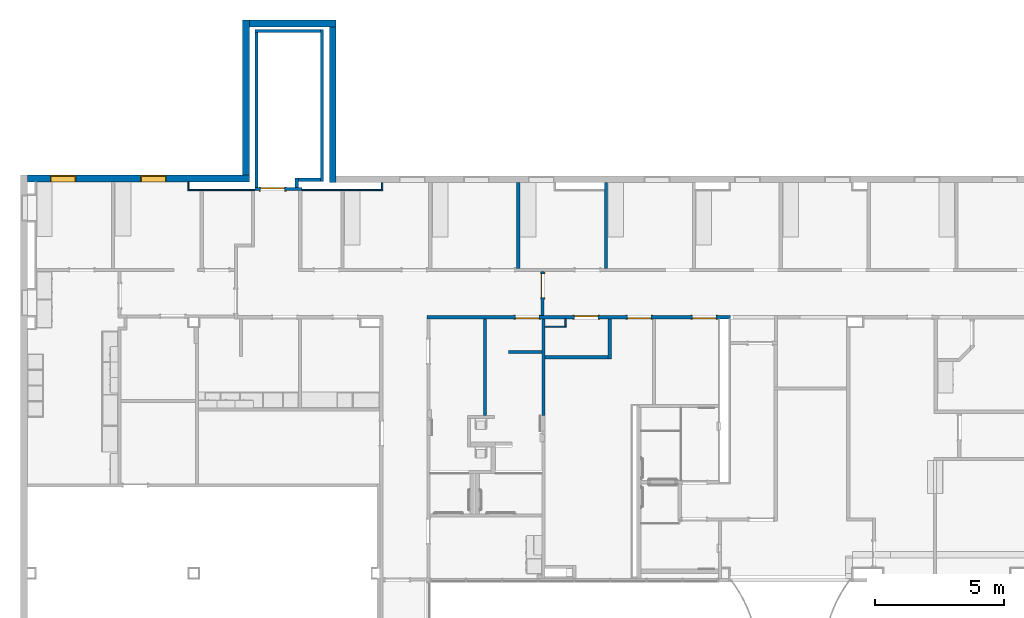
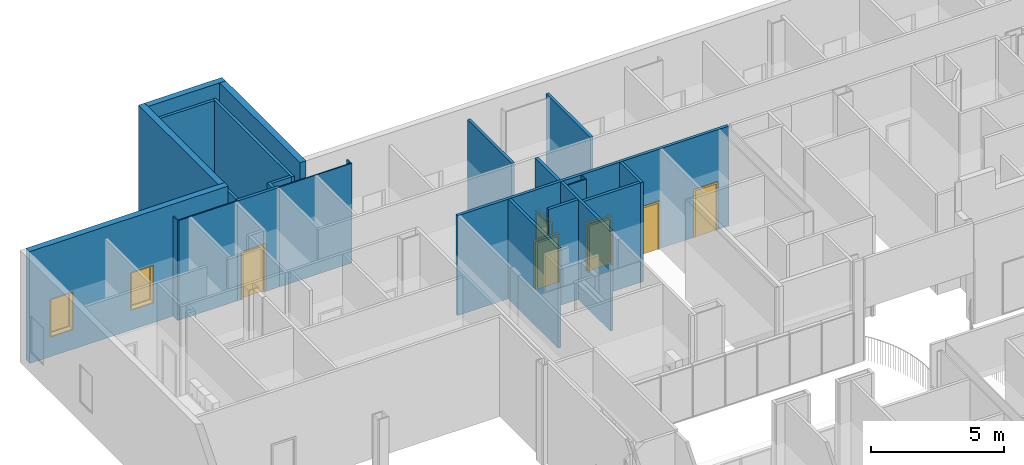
# One storey, part 21 of 45: 25 walls, 6 doors, 2 windows, 8 openings.
"""IFC2X3 building model written with IfcOpenShell, lengths in metres."""

from ifc_helpers import new_model, entity, si_unit, converted_unit, frame, frame_2d, origin, origin_2d_with_axis, place, context, project, spatial, polyline, rectangle, outline, extrude, source, transform, mapped, material, layer, layer_set, layer_usage, type_object, type_shapes, element, fill, save


model = new_model("IFC2X3")

# Units and contexts
model_context = context("Model", 3, precision=1e-09, world=origin())
plan_context = context("Plan", 3, precision=1e-09, world=origin())
ifc_project = project(units=[si_unit("LENGTHUNIT", "METRE"), si_unit("AREAUNIT", "SQUARE_METRE"), si_unit("VOLUMEUNIT", "CUBIC_METRE"), converted_unit("PLANEANGLEUNIT", "DEGREE", entity("IfcRatioMeasure", 0.01745329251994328), si_unit("PLANEANGLEUNIT", "RADIAN"), dimensions=[0, 0, 0, 0, 0, 0, 0]), si_unit("TIMEUNIT", "SECOND")], contexts=[model_context, plan_context])

# Site, building, storey
site_placement = place(None, origin())
site = spatial("IfcSite", under=ifc_project, at=site_placement, Name="Default", CompositionType="ELEMENT")
building_placement = place(site_placement, origin())
building = spatial("IfcBuilding", under=site, at=building_placement, CompositionType="ELEMENT")
storey_placement = place(building_placement, frame((0.0, 0.0, 4.570000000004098)))
storey = spatial("IfcBuildingStorey", under=building, at=storey_placement, Name="Second Floor", CompositionType="ELEMENT", Elevation=4.570000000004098)

# Wall, openings, doors
ifc_material_1 = material(Name="Plasterboard")
ifc_layer_1 = layer(ifc_material_1, 0.016)
ifc_material_2 = material(Name="Metal - Stud Layer")
ifc_layer_2 = layer(ifc_material_2, 0.092)
ifc_layer_3 = layer(ifc_material_1, 0.016)
ifc_layer_set_1 = layer_set([ifc_layer_1, ifc_layer_2, ifc_layer_3], Name="Basic Wall:Interior - Partition (92mm Stud)")
ifc_layer_usage_1 = layer_usage(ifc_layer_set_1, "AXIS2", "NEGATIVE", 0.062)
wall_1_placement = place(storey_placement, frame((-31.61000000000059, 44.98243871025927, 0.0)))
wall_1 = element("IfcWallStandardCase", 1, at=wall_1_placement, inside=storey, material=ifc_layer_usage_1, Name="Basic Wall:Interior - Partition (92mm Stud)", ObjectType="Basic Wall:Interior - Partition (92mm Stud)", context=model_context, shape_type="SweptSolid", body=[
    extrude(rectangle(XDim=11.78000000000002, YDim=0.1240000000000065, at=frame_2d((5.890000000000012, 0.0), x_axis=(-1.0, 0.0))), origin(), (0.0, 0.0, 1.0), 4.577999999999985),
])
opening_1_placement = place(wall_1_placement, frame((8.69600000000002, 0.06199999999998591, 0.0)))
opening_1 = element("IfcOpeningElement", 2, at=opening_1_placement, cuts=wall_1, Name="M_Single-Flush:0915 x 2134mm:0915 x 2134mm:1", ObjectType="Opening", context=model_context, shape_type="SweptSolid", body=[
    extrude(rectangle(XDim=0.9149999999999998, YDim=2.134, at=frame_2d((1.067, 0.4574999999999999), x_axis=(0.0, -1.0))), frame((0.0, 0.0, 0.0), z_axis=(0.0, -1.0, 0.0), x_axis=(0.0, 0.0, 1.0)), (0.0, 0.0, 1.0), 0.124),
])
opening_2_placement = place(wall_1_placement, frame((4.360000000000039, 0.06200000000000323, 0.0)))
opening_2 = element("IfcOpeningElement", 3, at=opening_2_placement, cuts=wall_1, Name="M_Single-Flush:0915 x 2134mm:0915 x 2134mm:1", ObjectType="Opening", context=model_context, shape_type="SweptSolid", body=[
    extrude(rectangle(XDim=0.9149999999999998, YDim=2.134, at=frame_2d((1.067, 0.4574999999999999), x_axis=(0.0, -1.0))), frame((0.0, 0.0, 0.0), z_axis=(0.0, -1.0, 0.0), x_axis=(0.0, 0.0, 1.0)), (0.0, 0.0, 1.0), 0.124),
])
opening_3_placement = place(wall_1_placement, frame((11.22000000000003, 0.06199999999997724, 0.0)))
opening_3 = element("IfcOpeningElement", 4, at=opening_3_placement, cuts=wall_1, Name="M_Single-Flush:0915 x 2134mm:0915 x 2134mm:1", ObjectType="Opening", context=model_context, shape_type="SweptSolid", body=[
    extrude(rectangle(XDim=0.9149999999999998, YDim=2.134, at=frame_2d((1.067, 0.4574999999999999), x_axis=(0.0, -1.0))), frame((0.0, 0.0, 0.0), z_axis=(0.0, -1.0, 0.0), x_axis=(0.0, 0.0, 1.0)), (0.0, 0.0, 1.0), 0.124),
])
opening_4_placement = place(wall_1_placement, frame((5.721000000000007, -0.06200000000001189, 0.0)))
opening_4 = element("IfcOpeningElement", 5, at=opening_4_placement, cuts=wall_1, Name="M_Single-Flush:0915 x 2134mm:0915 x 2134mm:1", ObjectType="Opening", context=model_context, shape_type="SweptSolid", body=[
    extrude(rectangle(XDim=0.9149999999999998, YDim=2.134, at=frame_2d((1.067, 0.4575), x_axis=(0.0, 1.0))), frame((0.0, 0.0, 0.0), z_axis=(0.0, 1.0, 0.0), x_axis=(0.0, 0.0, 1.0)), (0.0, 0.0, 1.0), 0.124),
])
door_style_1 = type_object("IfcDoorStyle", Name="0915 x 2134mm", ConstructionType="NOTDEFINED", OperationType="SINGLE_SWING_RIGHT", ParameterTakesPrecedence=False, Sizeable=False)
shared_shape_1 = source(origin(), model_context, "Body", "SweptSolid", [
    extrude(outline(polyline([(-0.5335, -1.123999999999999), (0.5334999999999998, -1.123999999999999), (0.5334999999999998, 1.086), (0.4574999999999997, 1.086), (0.4574999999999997, -1.048000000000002), (-0.4574999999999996, -1.048000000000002), (-0.4574999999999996, 1.086), (-0.5335, 1.086), (-0.5335, -1.123999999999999)])), frame((0.4575000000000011, 0.1239999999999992, 1.086), z_axis=(0.0, 1.0, 0.0), x_axis=(1.0, 0.0, 0.0)), (0.0, 0.0, 1.0), 0.02499999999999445),
    extrude(outline(polyline([(-1.123999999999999, -0.5334999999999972), (1.085999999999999, -0.5334999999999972), (1.085999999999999, -0.4575000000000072), (-1.048, -0.4575000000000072), (-1.048, 0.4575000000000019), (1.085999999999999, 0.4575000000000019), (1.085999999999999, 0.5335000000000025), (-1.123999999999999, 0.5335000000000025), (-1.123999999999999, -0.5334999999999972)])), frame((0.4575000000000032, -0.02500000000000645, 1.085999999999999), z_axis=(0.0, 1.0, 0.0), x_axis=(0.0, 0.0, -1.0)), (0.0, 0.0, 1.0), 0.02500000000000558),
    extrude(rectangle(XDim=0.051, YDim=0.9149999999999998, at=origin_2d_with_axis()), frame((0.4575000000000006, 0.09849999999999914, 0.0), z_axis=(0.0, 0.0, 1.0), x_axis=(0.0, 1.0, 0.0)), (0.0, 0.0, 1.0), 2.133999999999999),
])
type_shapes(door_style_1, [shared_shape_1])
door_1_placement = place(opening_4_placement, origin())
door_1 = element("IfcDoor", 6, at=door_1_placement, inside=storey, type_object=door_style_1, Name="M_Single-Flush:0915 x 2134mm:0915 x 2134mm", ObjectType="0915 x 2134mm", OverallHeight=2.134, OverallWidth=0.9149999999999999, context=model_context, shape_type="MappedRepresentation", body=[
    mapped(shared_shape_1, transform((0.0, 0.0, 0.0), scale=1.0)),
])
fill(opening_4, door_1)
door_style_2 = type_object("IfcDoorStyle", Name="0915 x 2134mm", ConstructionType="NOTDEFINED", OperationType="SINGLE_SWING_LEFT", ParameterTakesPrecedence=False, Sizeable=False)
shared_shape_2 = source(origin(), model_context, "Body", "SweptSolid", [
    extrude(outline(polyline([(-0.5335, -1.123999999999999), (0.5334999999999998, -1.123999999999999), (0.5334999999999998, 1.086), (0.4574999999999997, 1.086), (0.4574999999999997, -1.048000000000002), (-0.4574999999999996, -1.048000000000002), (-0.4574999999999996, 1.086), (-0.5335, 1.086), (-0.5335, -1.123999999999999)])), frame((0.4575000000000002, 0.1489999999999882, 1.086), z_axis=(0.0, -1.0, 0.0), x_axis=(-1.0, 0.0, 0.0)), (0.0, 0.0, 1.0), 0.02499999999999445),
    extrude(outline(polyline([(-1.123999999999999, -0.5334999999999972), (1.085999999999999, -0.5334999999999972), (1.085999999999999, -0.4575000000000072), (-1.048, -0.4575000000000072), (-1.048, 0.4575000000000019), (1.085999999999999, 0.4575000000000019), (1.085999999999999, 0.5335000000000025), (-1.123999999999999, 0.5335000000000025), (-1.123999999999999, -0.5334999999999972)])), frame((0.4574999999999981, 0.0, 1.085999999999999), z_axis=(0.0, -1.0, 0.0), x_axis=(0.0, 0.0, -1.0)), (0.0, 0.0, 1.0), 0.02500000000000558),
    extrude(rectangle(XDim=0.9149999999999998, YDim=0.051, at=origin_2d_with_axis()), frame((0.4575000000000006, 0.09849999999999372, 0.0)), (0.0, 0.0, 1.0), 2.133999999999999),
])
type_shapes(door_style_2, [shared_shape_2])
door_2_placement = place(opening_3_placement, frame((0.0, 0.0, 0.0), z_axis=(0.0, 0.0, 1.0), x_axis=(-1.0, 0.0, 0.0)))
door_2 = element("IfcDoor", 7, at=door_2_placement, inside=storey, type_object=door_style_2, Name="M_Single-Flush:0915 x 2134mm:0915 x 2134mm", ObjectType="0915 x 2134mm", OverallHeight=2.134, OverallWidth=0.9149999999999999, context=model_context, shape_type="MappedRepresentation", body=[
    mapped(shared_shape_2, transform((0.0, 0.0, 0.0), scale=1.0)),
])
fill(opening_3, door_2)
door_3_placement = place(opening_2_placement, frame((0.0, 0.0, 0.0), z_axis=(0.0, 0.0, 1.0), x_axis=(-1.0, 0.0, 0.0)))
door_3 = element("IfcDoor", 8, at=door_3_placement, inside=storey, type_object=door_style_2, Name="M_Single-Flush:0915 x 2134mm:0915 x 2134mm", ObjectType="0915 x 2134mm", OverallHeight=2.134, OverallWidth=0.9149999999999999, context=model_context, shape_type="MappedRepresentation", body=[
    mapped(shared_shape_2, transform((0.0, 0.0, 0.0), scale=1.0)),
])
fill(opening_2, door_3)
door_4_placement = place(opening_1_placement, frame((0.0, 0.0, 0.0), z_axis=(0.0, 0.0, 1.0), x_axis=(-1.0, 0.0, 0.0)))
door_4 = element("IfcDoor", 9, at=door_4_placement, inside=storey, type_object=door_style_2, Name="M_Single-Flush:0915 x 2134mm:0915 x 2134mm", ObjectType="0915 x 2134mm", OverallHeight=2.134, OverallWidth=0.9149999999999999, context=model_context, shape_type="MappedRepresentation", body=[
    mapped(shared_shape_2, transform((0.0, 0.0, 0.0), scale=1.0)),
])
fill(opening_1, door_4)

# Wall, openings, windows
ifc_material_3 = material(Name="Insulation - Insulated Panel")
ifc_layer_4 = layer(ifc_material_3, 0.042)
ifc_material_4 = material(Name="Metal - Firring")
ifc_layer_5 = layer(ifc_material_4, 0.038)
ifc_material_5 = material(Name="Wood - Sheathing - plywood")
ifc_layer_6 = layer(ifc_material_5, 0.019)
ifc_layer_7 = layer(ifc_material_2, 0.152)
ifc_layer_8 = layer(ifc_material_1, 0.016)
ifc_layer_set_2 = layer_set([ifc_layer_4, ifc_layer_5, ifc_layer_6, ifc_layer_7, ifc_layer_8], Name="Basic Wall:Exterior - Insul Panel on Mtl. Stud")
ifc_layer_usage_2 = layer_usage(ifc_layer_set_2, "AXIS2", "NEGATIVE", 0.1335)
wall_2_placement = place(storey_placement, frame((-47.11300000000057, 50.37093871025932, 0.0)))
wall_2 = element("IfcWallStandardCase", 10, at=wall_2_placement, inside=storey, material=ifc_layer_usage_2, Name="Basic Wall:Exterior - Insul Panel on Mtl. Stud", ObjectType="Basic Wall:Exterior - Insul Panel on Mtl. Stud", context=model_context, shape_type="SweptSolid", body=[
    extrude(rectangle(XDim=8.61000000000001, YDim=0.2670000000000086, at=frame_2d((4.305000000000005, 0.0), x_axis=(-1.0, 0.0))), origin(), (0.0, 0.0, 1.0), 5.136999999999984),
])
opening_5_placement = place(wall_2_placement, frame((4.383000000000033, -0.1335000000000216, 0.905)))
opening_5 = element("IfcOpeningElement", 11, at=opening_5_placement, cuts=wall_2, Name="M_Fixed:1735 x 1000mm:1735 x 1000mm:1", ObjectType="Opening", context=model_context, shape_type="SweptSolid", body=[
    extrude(rectangle(XDim=1.734999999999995, YDim=0.9999999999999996, at=frame_2d((0.8674999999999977, 0.4999999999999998), x_axis=(1.0, 0.0))), frame((0.0, 0.0, 0.0), z_axis=(0.0, 1.0, 0.0), x_axis=(0.0, 0.0, 1.0)), (0.0, 0.0, 1.0), 0.267),
])
opening_6_placement = place(wall_2_placement, frame((0.8830000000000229, -0.133500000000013, 0.905)))
opening_6 = element("IfcOpeningElement", 12, at=opening_6_placement, cuts=wall_2, Name="M_Fixed:1735 x 1000mm:1735 x 1000mm:1", ObjectType="Opening", context=model_context, shape_type="SweptSolid", body=[
    extrude(rectangle(XDim=1.734999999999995, YDim=0.9999999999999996, at=frame_2d((0.8674999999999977, 0.4999999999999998), x_axis=(1.0, 0.0))), frame((0.0, 0.0, 0.0), z_axis=(0.0, 1.0, 0.0), x_axis=(0.0, 0.0, 1.0)), (0.0, 0.0, 1.0), 0.267),
])
window_style = type_object("IfcWindowStyle", Name="1735 x 1000mm", ConstructionType="NOTDEFINED", OperationType="NOTDEFINED", ParameterTakesPrecedence=False, Sizeable=False)
shared_shape_3 = source(origin(), model_context, "Body", "SweptSolid", [
    extrude(rectangle(XDim=0.012, YDim=0.873999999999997, at=origin_2d_with_axis()), frame((0.5000000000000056, 0.2259999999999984, 0.06299999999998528), z_axis=(0.0, 0.0, 1.0), x_axis=(0.0, -1.0, 0.0)), (0.0, 0.0, 1.0), 1.609000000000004),
    extrude(outline(polyline([(-0.4809999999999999, -0.8485000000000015), (0.4809999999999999, -0.8485000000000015), (0.4809999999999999, 0.8485000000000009), (-0.4809999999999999, 0.8485000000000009), (-0.4809999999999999, -0.8485000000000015)]), holes=[polyline([(-0.4369999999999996, -0.8045000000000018), (-0.4369999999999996, 0.8045000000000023), (0.4369999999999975, 0.8045000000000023), (0.4369999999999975, -0.8045000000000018), (-0.4369999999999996, -0.8045000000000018)])]), frame((0.5000000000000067, 0.203999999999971, 0.8674999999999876), z_axis=(0.0, 1.0, 0.0), x_axis=(1.0, 0.0, 0.0)), (0.0, 0.0, 1.0), 0.04400000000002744),
    extrude(outline(polyline([(-0.4999999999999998, -0.8674999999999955), (0.4999999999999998, -0.8674999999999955), (0.4999999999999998, 0.8674999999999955), (-0.4999999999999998, 0.8674999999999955), (-0.4999999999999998, -0.8674999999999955)]), holes=[polyline([(-0.4810000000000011, -0.8484999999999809), (-0.4810000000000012, 0.8485000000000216), (0.4809999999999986, 0.8485000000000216), (0.4809999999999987, -0.8484999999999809), (-0.4810000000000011, -0.8484999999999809)])]), frame((0.500000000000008, 0.203999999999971, 0.8675000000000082), z_axis=(0.0, 1.0, 0.0), x_axis=(1.0, 0.0, 0.0)), (0.0, 0.0, 1.0), 0.06300000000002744),
    extrude(outline(polyline([(-0.5000000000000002, -0.867499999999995), (0.5000000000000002, -0.867499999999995), (0.5000000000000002, 0.867499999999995), (-0.5000000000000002, 0.867499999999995), (-0.5000000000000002, -0.867499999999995)]), holes=[polyline([(-0.4679999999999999, -0.8354999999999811), (-0.4679999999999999, 0.8355000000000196), (0.4680000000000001, 0.8355000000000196), (0.4680000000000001, -0.8354999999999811), (-0.4679999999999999, -0.8354999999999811)])]), frame((0.5000000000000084, 0.0, 0.8675000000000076), z_axis=(0.0, 1.0, 0.0), x_axis=(1.0, 0.0, 0.0)), (0.0, 0.0, 1.0), 0.2039999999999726),
])
type_shapes(window_style, [shared_shape_3])
window_1_placement = place(opening_5_placement, origin())
window_1 = element("IfcWindow", 13, at=window_1_placement, inside=storey, type_object=window_style, Name="M_Fixed:1735 x 1000mm:1735 x 1000mm", ObjectType="1735 x 1000mm", OverallHeight=1.734999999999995, OverallWidth=0.9999999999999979, context=model_context, shape_type="MappedRepresentation", body=[
    mapped(shared_shape_3, transform((0.0, 0.0, 0.0), scale=1.0)),
])
fill(opening_5, window_1)
window_2_placement = place(opening_6_placement, origin())
window_2 = element("IfcWindow", 14, at=window_2_placement, inside=storey, type_object=window_style, Name="M_Fixed:1735 x 1000mm:1735 x 1000mm", ObjectType="1735 x 1000mm", OverallHeight=1.734999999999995, OverallWidth=0.9999999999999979, context=model_context, shape_type="MappedRepresentation", body=[
    mapped(shared_shape_3, transform((0.0, 0.0, 0.0), scale=1.0)),
])
fill(opening_6, window_2)

# Wall
wall_3_placement = place(storey_placement, frame((-27.08800000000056, 41.1644387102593, 0.0), z_axis=(0.0, 0.0, 1.0), x_axis=(0.0, 1.0, 0.0)))
element("IfcWallStandardCase", 15, at=wall_3_placement, inside=storey, material=ifc_layer_usage_1, Name="Basic Wall:Interior - Partition (92mm Stud)", ObjectType="Basic Wall:Interior - Partition (92mm Stud)", context=model_context, shape_type="SweptSolid", body=[
    extrude(rectangle(XDim=3.755999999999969, YDim=0.1239999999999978, at=frame_2d((1.877999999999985, 0.0), x_axis=(-1.0, 0.0))), origin(), (0.0, 0.0, 1.0), 4.577999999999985),
])

# Wall, opening, door
ifc_material_6 = material(Name="Type-X Plasterboard")
ifc_layer_9 = layer(ifc_material_6, 0.016)
ifc_layer_10 = layer(ifc_material_2, 0.092)
ifc_layer_11 = layer(ifc_material_6, 0.016)
ifc_layer_set_3 = layer_set([ifc_layer_9, ifc_layer_10, ifc_layer_11], Name="Basic Wall:Interior - Rated 1-HR (92mm Stud)")
ifc_layer_usage_3 = layer_usage(ifc_layer_set_3, "AXIS2", "NEGATIVE", 0.06200000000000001)
wall_4_placement = place(storey_placement, frame((-36.46600000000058, 49.95643871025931, 0.0), z_axis=(0.0, 0.0, 1.0), x_axis=(-1.0, 0.0, 0.0)))
wall_4 = element("IfcWallStandardCase", 16, at=wall_4_placement, inside=storey, material=ifc_layer_usage_3, Name="Basic Wall:Interior - Rated 1-HR (92mm Stud)", ObjectType="Basic Wall:Interior - Rated 1-HR (92mm Stud)", context=model_context, shape_type="SweptSolid", body=[
    extrude(rectangle(XDim=1.817999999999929, YDim=0.1240000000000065, at=frame_2d((0.9089999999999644, 0.0), x_axis=(-1.0, 0.0))), origin(), (0.0, 0.0, 1.0), 4.577999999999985),
])
opening_7_placement = place(wall_4_placement, frame((1.593999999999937, 0.06199999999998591, 0.0)))
opening_7 = element("IfcOpeningElement", 17, at=opening_7_placement, cuts=wall_4, Name="M_Single-Flush:0915 x 2134mm Rated:0915 x 2134mm Rated:1", ObjectType="Opening", context=model_context, shape_type="SweptSolid", body=[
    extrude(rectangle(XDim=0.9149999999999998, YDim=2.134, at=frame_2d((1.067, 0.4575000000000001), x_axis=(0.0, -1.0))), frame((0.0, 0.0, 0.0), z_axis=(0.0, -1.0, 0.0), x_axis=(0.0, 0.0, 1.0)), (0.0, 0.0, 1.0), 0.124),
])
door_style_3 = type_object("IfcDoorStyle", Name="0915 x 2134mm Rated", ConstructionType="NOTDEFINED", OperationType="SINGLE_SWING_LEFT", ParameterTakesPrecedence=False, Sizeable=False)
shared_shape_4 = source(origin(), model_context, "Body", "SweptSolid", [
    extrude(outline(polyline([(-0.5335, -1.123999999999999), (0.5334999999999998, -1.123999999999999), (0.5334999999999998, 1.086), (0.4574999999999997, 1.086), (0.4574999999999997, -1.048000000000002), (-0.4574999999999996, -1.048000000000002), (-0.4574999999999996, 1.086), (-0.5335, 1.086), (-0.5335, -1.123999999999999)])), frame((0.4575000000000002, 0.1489999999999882, 1.086), z_axis=(0.0, -1.0, 0.0), x_axis=(-1.0, 0.0, 0.0)), (0.0, 0.0, 1.0), 0.02499999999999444),
    extrude(outline(polyline([(-1.123999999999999, -0.5334999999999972), (1.085999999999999, -0.5334999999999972), (1.085999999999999, -0.4575000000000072), (-1.048, -0.4575000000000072), (-1.048, 0.4575000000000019), (1.085999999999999, 0.4575000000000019), (1.085999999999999, 0.5335000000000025), (-1.123999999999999, 0.5335000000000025), (-1.123999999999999, -0.5334999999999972)])), frame((0.4574999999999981, 0.0, 1.085999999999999), z_axis=(0.0, -1.0, 0.0), x_axis=(0.0, 0.0, -1.0)), (0.0, 0.0, 1.0), 0.02500000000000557),
    extrude(rectangle(XDim=0.9149999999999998, YDim=0.051, at=origin_2d_with_axis()), frame((0.4575000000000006, 0.09849999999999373, 0.0)), (0.0, 0.0, 1.0), 2.133999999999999),
])
type_shapes(door_style_3, [shared_shape_4])
door_5_placement = place(opening_7_placement, frame((0.0, 0.0, 0.0), z_axis=(0.0, 0.0, 1.0), x_axis=(-1.0, 0.0, 0.0)))
door_5 = element("IfcDoor", 18, at=door_5_placement, inside=storey, type_object=door_style_3, Name="M_Single-Flush:0915 x 2134mm Rated:0915 x 2134mm Rated", ObjectType="0915 x 2134mm Rated", OverallHeight=2.134, OverallWidth=0.9149999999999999, context=model_context, shape_type="MappedRepresentation", body=[
    mapped(shared_shape_4, transform((0.0, 0.0, 0.0), scale=1.0)),
])
fill(opening_7, door_5)

# Walls
wall_5_placement = place(storey_placement, frame((-38.50300000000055, 56.38649999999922, 0.0)))
element("IfcWallStandardCase", 19, at=wall_5_placement, inside=storey, material=ifc_layer_usage_2, Name="Basic Wall:Exterior - Insul Panel on Mtl. Stud", ObjectType="Basic Wall:Exterior - Insul Panel on Mtl. Stud", context=model_context, shape_type="SweptSolid", body=[
    extrude(rectangle(XDim=3.372999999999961, YDim=0.2670000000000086, at=frame_2d((1.68649999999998, 0.0), x_axis=(-1.0, 0.0))), origin(), (0.0, 0.0, 1.0), 5.136999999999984),
])
wall_6_placement = place(storey_placement, frame((-38.63650000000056, 50.50443871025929, 0.0), z_axis=(0.0, 0.0, 1.0), x_axis=(0.0, 1.0, 0.0)))
element("IfcWallStandardCase", 20, at=wall_6_placement, inside=storey, material=ifc_layer_usage_2, Name="Basic Wall:Exterior - Insul Panel on Mtl. Stud", ObjectType="Basic Wall:Exterior - Insul Panel on Mtl. Stud", context=model_context, shape_type="SweptSolid", body=[
    extrude(rectangle(XDim=6.015561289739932, YDim=0.267, at=frame_2d((3.007780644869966, 0.0), x_axis=(-1.0, 0.0))), origin(), (0.0, 0.0, 1.0), 5.136999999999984),
])
ifc_layer_12 = layer(ifc_material_2, 0.038)
ifc_layer_13 = layer(ifc_material_1, 0.016)
ifc_layer_set_4 = layer_set([ifc_layer_12, ifc_layer_13], Name="Basic Wall:Interior - Furring (38 mm Stud)")
ifc_layer_usage_4 = layer_usage(ifc_layer_set_4, "AXIS2", "NEGATIVE", 0.027)
wall_7_placement = place(storey_placement, frame((-40.83600000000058, 49.92143871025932, 0.0)))
element("IfcWallStandardCase", 21, at=wall_7_placement, inside=storey, material=ifc_layer_usage_4, Name="Basic Wall:Interior - Furring (38 mm Stud)", ObjectType="Basic Wall:Interior - Furring (38 mm Stud)", context=model_context, shape_type="SweptSolid", body=[
    extrude(rectangle(XDim=2.55200000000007, YDim=0.05400000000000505, at=frame_2d((1.276000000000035, 0.0), x_axis=(-1.0, 0.0))), origin(), (0.0, 0.0, 1.0), 4.577999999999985),
])
wall_8_placement = place(storey_placement, frame((-36.46600000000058, 49.92143871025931, 0.0)))
element("IfcWallStandardCase", 22, at=wall_8_placement, inside=storey, material=ifc_layer_usage_4, Name="Basic Wall:Interior - Furring (38 mm Stud)", ObjectType="Basic Wall:Interior - Furring (38 mm Stud)", context=model_context, shape_type="SweptSolid", body=[
    extrude(rectangle(XDim=3.145999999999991, YDim=0.05400000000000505, at=frame_2d((1.572999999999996, 0.0), x_axis=(-1.0, 0.0))), origin(), (0.0, 0.0, 1.0), 4.577999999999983),
])
wall_9_placement = place(storey_placement, frame((-24.65800000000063, 46.87843871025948, 0.0), z_axis=(0.0, 0.0, 1.0), x_axis=(0.0, 1.0, 0.0)))
element("IfcWallStandardCase", 23, at=wall_9_placement, inside=storey, material=ifc_layer_usage_1, Name="Basic Wall:Interior - Partition (92mm Stud)", ObjectType="Basic Wall:Interior - Partition (92mm Stud)", context=model_context, shape_type="SweptSolid", body=[
    extrude(rectangle(XDim=3.324561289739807, YDim=0.1239999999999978, at=frame_2d((1.662280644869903, 0.0), x_axis=(-1.0, 0.0))), origin(), (0.0, 0.0, 1.0), 4.577999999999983),
])
wall_10_placement = place(storey_placement, frame((-35.26350000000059, 56.25299999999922, 0.0), z_axis=(0.0, 0.0, 1.0), x_axis=(0.0, -1.0, 0.0)))
element("IfcWallStandardCase", 24, at=wall_10_placement, inside=storey, material=ifc_layer_usage_2, Name="Basic Wall:Exterior - Insul Panel on Mtl. Stud", ObjectType="Basic Wall:Exterior - Insul Panel on Mtl. Stud", context=model_context, shape_type="SweptSolid", body=[
    extrude(rectangle(XDim=6.049999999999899, YDim=0.267, at=frame_2d((3.024999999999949, 0.0), x_axis=(-1.0, 0.0))), origin(), (0.0, 0.0, 1.0), 5.136999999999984),
])

# Wall, opening, door
wall_11_placement = place(storey_placement, frame((-27.12200000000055, 46.75443871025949, 0.0), z_axis=(0.0, 0.0, 1.0), x_axis=(0.0, -1.0, 0.0)))
wall_11 = element("IfcWallStandardCase", 25, at=wall_11_placement, inside=storey, material=ifc_layer_usage_1, Name="Basic Wall:Interior - Partition (92mm Stud)", ObjectType="Basic Wall:Interior - Partition (92mm Stud)", context=model_context, shape_type="SweptSolid", body=[
    extrude(rectangle(XDim=1.710000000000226, YDim=0.1239999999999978, at=frame_2d((0.8550000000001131, 0.0), x_axis=(-1.0, 0.0))), origin(), (0.0, 0.0, 1.0), 4.577999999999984),
])
opening_8_placement = place(wall_11_placement, frame((1.014999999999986, 0.0619999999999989, 0.0)))
opening_8 = element("IfcOpeningElement", 26, at=opening_8_placement, cuts=wall_11, Name="M_Single-Flush:0915 x 2134mm:0915 x 2134mm:1", ObjectType="Opening", context=model_context, shape_type="SweptSolid", body=[
    extrude(rectangle(XDim=0.9149999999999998, YDim=2.134, at=frame_2d((1.067, 0.4575), x_axis=(0.0, 1.0))), frame((0.0, 0.0, 0.0), z_axis=(0.0, -1.0, 0.0), x_axis=(0.0, 0.0, 1.0)), (0.0, 0.0, 1.0), 0.124),
])
door_6_placement = place(opening_8_placement, frame((0.0, 0.0, 0.0), z_axis=(0.0, 0.0, 1.0), x_axis=(-1.0, 0.0, 0.0)))
door_6 = element("IfcDoor", 27, at=door_6_placement, inside=storey, type_object=door_style_1, Name="M_Single-Flush:0915 x 2134mm:0915 x 2134mm", ObjectType="0915 x 2134mm", OverallHeight=2.134, OverallWidth=0.9149999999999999, context=model_context, shape_type="MappedRepresentation", body=[
    mapped(shared_shape_1, transform((0.0, 0.0, 0.0), scale=1.0)),
])
fill(opening_8, door_6)

# Walls
wall_12_placement = place(storey_placement, frame((-38.22200000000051, 56.03443807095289, 0.0), z_axis=(0.0, 0.0, 1.0), x_axis=(0.0, -1.0, 0.0)))
element("IfcWallStandardCase", 28, at=wall_12_placement, inside=storey, material=ifc_layer_usage_3, Name="Basic Wall:Interior - Rated 1-HR (92mm Stud)", ObjectType="Basic Wall:Interior - Rated 1-HR (92mm Stud)", context=model_context, shape_type="SweptSolid", body=[
    extrude(rectangle(XDim=6.015999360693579, YDim=0.1239999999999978, at=frame_2d((3.007999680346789, 0.0), x_axis=(-1.0, 0.0))), origin(), (0.0, 0.0, 1.0), 4.577999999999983),
])
wall_13_placement = place(storey_placement, frame((-24.51200000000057, 44.92043871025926, 0.0), z_axis=(0.0, 0.0, 1.0), x_axis=(0.0, -1.0, 0.0)))
element("IfcWallStandardCase", 29, at=wall_13_placement, inside=storey, material=ifc_layer_usage_1, Name="Basic Wall:Interior - Partition (92mm Stud)", ObjectType="Basic Wall:Interior - Partition (92mm Stud)", context=model_context, shape_type="SweptSolid", body=[
    extrude(rectangle(XDim=1.555999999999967, YDim=0.1239999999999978, at=frame_2d((0.7779999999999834, 0.0), x_axis=(-1.0, 0.0))), origin(), (0.0, 0.0, 1.0), 4.577999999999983),
])
wall_14_placement = place(storey_placement, frame((-29.35200000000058, 44.92043871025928, 0.0), z_axis=(0.0, 0.0, 1.0), x_axis=(0.0, -1.0, 0.0)))
element("IfcWallStandardCase", 30, at=wall_14_placement, inside=storey, material=ifc_layer_usage_1, Name="Basic Wall:Interior - Partition (92mm Stud)", ObjectType="Basic Wall:Interior - Partition (92mm Stud)", context=model_context, shape_type="SweptSolid", body=[
    extrude(rectangle(XDim=3.749891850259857, YDim=0.1239999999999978, at=frame_2d((1.874945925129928, 0.0), x_axis=(-1.0, 0.0))), origin(), (0.0, 0.0, 1.0), 4.577999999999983),
])
wall_15_placement = place(storey_placement, frame((-24.57400000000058, 43.4264387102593, 0.0), z_axis=(0.0, 0.0, 1.0), x_axis=(-1.0, 0.0, 0.0)))
element("IfcWallStandardCase", 31, at=wall_15_placement, inside=storey, material=ifc_layer_usage_1, Name="Basic Wall:Interior - Partition (92mm Stud)", ObjectType="Basic Wall:Interior - Partition (92mm Stud)", context=model_context, shape_type="SweptSolid", body=[
    extrude(rectangle(XDim=2.451999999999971, YDim=0.1240000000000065, at=frame_2d((1.225999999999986, 0.0), x_axis=(-1.0, 0.0))), origin(), (0.0, 0.0, 1.0), 4.577999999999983),
])
wall_16_placement = place(storey_placement, frame((-36.66200000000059, 50.37843971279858, 0.0), z_axis=(0.0, 0.0, 1.0), x_axis=(0.0, -1.0, 0.0)))
element("IfcWallStandardCase", 32, at=wall_16_placement, inside=storey, material=ifc_layer_usage_3, Name="Basic Wall:Interior - Rated 1-HR (92mm Stud)", ObjectType="Basic Wall:Interior - Rated 1-HR (92mm Stud)", context=model_context, shape_type="SweptSolid", body=[
    extrude(rectangle(XDim=0.3600010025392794, YDim=0.1239999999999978, at=frame_2d((0.1800005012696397, 0.0), x_axis=(-1.0, 0.0))), origin(), (0.0, 0.0, 1.0), 4.577999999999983),
])
wall_17_placement = place(storey_placement, frame((-28.06800000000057, 46.87843871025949, 0.0), z_axis=(0.0, 0.0, 1.0), x_axis=(0.0, 1.0, 0.0)))
element("IfcWallStandardCase", 33, at=wall_17_placement, inside=storey, material=ifc_layer_usage_1, Name="Basic Wall:Interior - Partition (92mm Stud)", ObjectType="Basic Wall:Interior - Partition (92mm Stud)", context=model_context, shape_type="SweptSolid", body=[
    extrude(rectangle(XDim=3.324561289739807, YDim=0.1239999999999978, at=frame_2d((1.662280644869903, 0.0), x_axis=(-1.0, 0.0))), origin(), (0.0, 0.0, 1.0), 4.577999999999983),
])
wall_18_placement = place(storey_placement, frame((-35.74000113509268, 50.31643971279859, 0.0), z_axis=(0.0, 0.0, 1.0), x_axis=(-1.0, 0.0, 0.0)))
element("IfcWallStandardCase", 34, at=wall_18_placement, inside=storey, material=ifc_layer_usage_3, Name="Basic Wall:Interior - Rated 1-HR (92mm Stud)", ObjectType="Basic Wall:Interior - Rated 1-HR (92mm Stud)", context=model_context, shape_type="SweptSolid", body=[
    extrude(rectangle(XDim=0.8599988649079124, YDim=0.1240000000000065, at=frame_2d((0.4299994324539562, 0.0), x_axis=(-1.0, 0.0))), origin(), (0.0, 0.0, 1.0), 4.577999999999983),
])
wall_19_placement = place(storey_placement, frame((-27.02600000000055, 44.6114387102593, 0.0)))
element("IfcWallStandardCase", 35, at=wall_19_placement, inside=storey, material=ifc_layer_usage_4, Name="Basic Wall:Interior - Furring (38 mm Stud)", ObjectType="Basic Wall:Interior - Furring (38 mm Stud)", context=model_context, shape_type="SweptSolid", body=[
    extrude(rectangle(XDim=0.8159999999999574, YDim=0.05400000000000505, at=frame_2d((0.4079999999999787, 0.0), x_axis=(-1.0, 0.0))), origin(), (0.0, 0.0, 1.0), 4.577999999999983),
])
wall_20_placement = place(storey_placement, frame((-35.74000113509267, 56.09643807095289, 0.0), z_axis=(0.0, 0.0, 1.0), x_axis=(-1.0, 0.0, 0.0)))
element("IfcWallStandardCase", 36, at=wall_20_placement, inside=storey, material=ifc_layer_usage_3, Name="Basic Wall:Interior - Rated 1-HR (92mm Stud)", ObjectType="Basic Wall:Interior - Rated 1-HR (92mm Stud)", context=model_context, shape_type="SweptSolid", body=[
    extrude(rectangle(XDim=2.543998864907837, YDim=0.1240000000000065, at=frame_2d((1.271999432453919, 0.0), x_axis=(-1.0, 0.0))), origin(), (0.0, 0.0, 1.0), 4.577999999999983),
])
wall_21_placement = place(storey_placement, frame((-33.3470000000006, 49.9484387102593, 0.0), z_axis=(0.0, 0.0, 1.0), x_axis=(0.0, 1.0, 0.0)))
element("IfcWallStandardCase", 37, at=wall_21_placement, inside=storey, material=ifc_layer_usage_4, Name="Basic Wall:Interior - Furring (38 mm Stud)", ObjectType="Basic Wall:Interior - Furring (38 mm Stud)", context=model_context, shape_type="SweptSolid", body=[
    extrude(rectangle(XDim=0.2545612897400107, YDim=0.05399999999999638, at=frame_2d((0.1272806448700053, 0.0), x_axis=(-1.0, 0.0))), origin(), (0.0, 0.0, 1.0), 4.577999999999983),
])
wall_22_placement = place(storey_placement, frame((-35.67800113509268, 50.25443971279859, 0.0), z_axis=(0.0, 0.0, 1.0), x_axis=(0.0, 1.0, 0.0)))
element("IfcWallStandardCase", 38, at=wall_22_placement, inside=storey, material=ifc_layer_usage_3, Name="Basic Wall:Interior - Rated 1-HR (92mm Stud)", ObjectType="Basic Wall:Interior - Rated 1-HR (92mm Stud)", context=model_context, shape_type="SweptSolid", body=[
    extrude(rectangle(XDim=5.903998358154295, YDim=0.1239999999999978, at=frame_2d((2.951999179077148, 0.0), x_axis=(-1.0, 0.0))), origin(), (0.0, 0.0, 1.0), 4.577999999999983),
])
wall_23_placement = place(storey_placement, frame((-26.2370000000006, 44.63843871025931, 0.0), z_axis=(0.0, 0.0, 1.0), x_axis=(0.0, 1.0, 0.0)))
element("IfcWallStandardCase", 39, at=wall_23_placement, inside=storey, material=ifc_layer_usage_4, Name="Basic Wall:Interior - Furring (38 mm Stud)", ObjectType="Basic Wall:Interior - Furring (38 mm Stud)", context=model_context, shape_type="SweptSolid", body=[
    extrude(rectangle(XDim=0.2819999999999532, YDim=0.05399999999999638, at=frame_2d((0.1409999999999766, 0.0), x_axis=(-1.0, 0.0))), origin(), (0.0, 0.0, 1.0), 4.577999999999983),
])
wall_24_placement = place(storey_placement, frame((-40.86300000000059, 50.23743871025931, 0.0), z_axis=(0.0, 0.0, 1.0), x_axis=(0.0, -1.0, 0.0)))
element("IfcWallStandardCase", 40, at=wall_24_placement, inside=storey, material=ifc_layer_usage_4, Name="Basic Wall:Interior - Furring (38 mm Stud)", ObjectType="Basic Wall:Interior - Furring (38 mm Stud)", context=model_context, shape_type="SweptSolid", body=[
    extrude(rectangle(XDim=0.342999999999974, YDim=0.05400000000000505, at=frame_2d((0.171499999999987, 0.0), x_axis=(-1.0, 0.0))), origin(), (0.0, 0.0, 1.0), 4.577999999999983),
])
wall_25_placement = place(storey_placement, frame((-28.44000000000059, 43.63243871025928, 0.0)))
element("IfcWallStandardCase", 41, at=wall_25_placement, inside=storey, material=ifc_layer_usage_1, Name="Basic Wall:Interior - Partition (92mm Stud)", ObjectType="Basic Wall:Interior - Partition (92mm Stud)", context=model_context, shape_type="SweptSolid", body=[
    extrude(rectangle(XDim=1.290000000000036, YDim=0.1240000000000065, at=frame_2d((0.6450000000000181, 0.0), x_axis=(-1.0, 0.0))), origin(), (0.0, 0.0, 1.0), 4.577999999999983),
])

save(model, "model.ifc")
